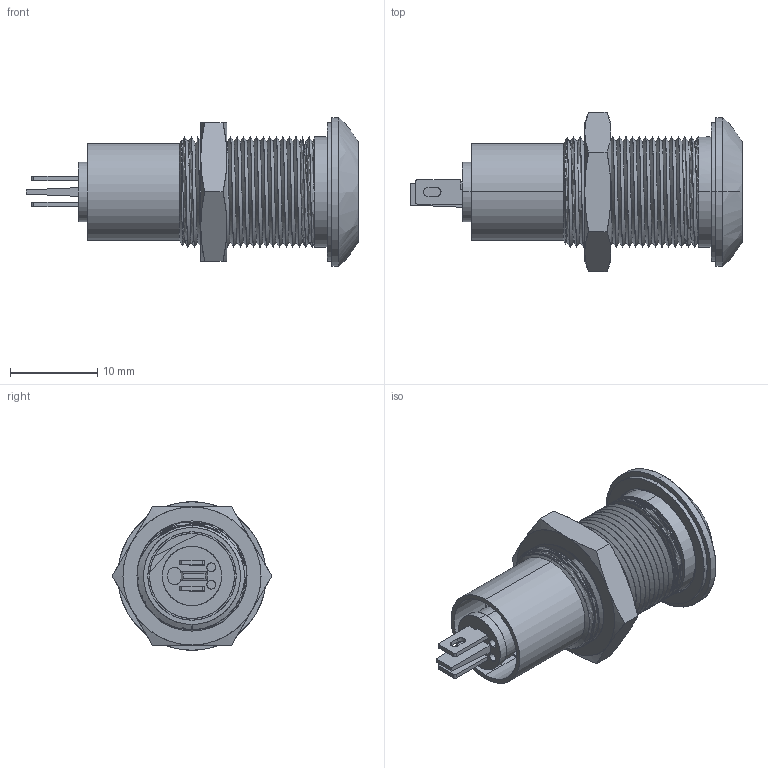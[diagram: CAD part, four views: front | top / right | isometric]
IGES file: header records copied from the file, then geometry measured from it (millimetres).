
Start section: SolidWorks IGES file using analytic representation for surfaces
Global section: file name: C:\Users\paulr\Desktop\STEP-IGES FILES\538 SERIES\538 WITH TAGS ABOVE 50VAC.IGS; native system: SolidWorks 2015; preprocessor: SolidWorks 2015; author: PaulR; date: 160106.153059; units: millimetre
Bounding box: 38 x 18.24 x 17 mm (x, y, z)
Surface area: 4285.7 mm2 (no closed solid volume)
Topology: 0 solids, 0 shells, 411 faces, 5463 edges, 5463 vertices
Faces by surface type: bspline 248, revolution 163
